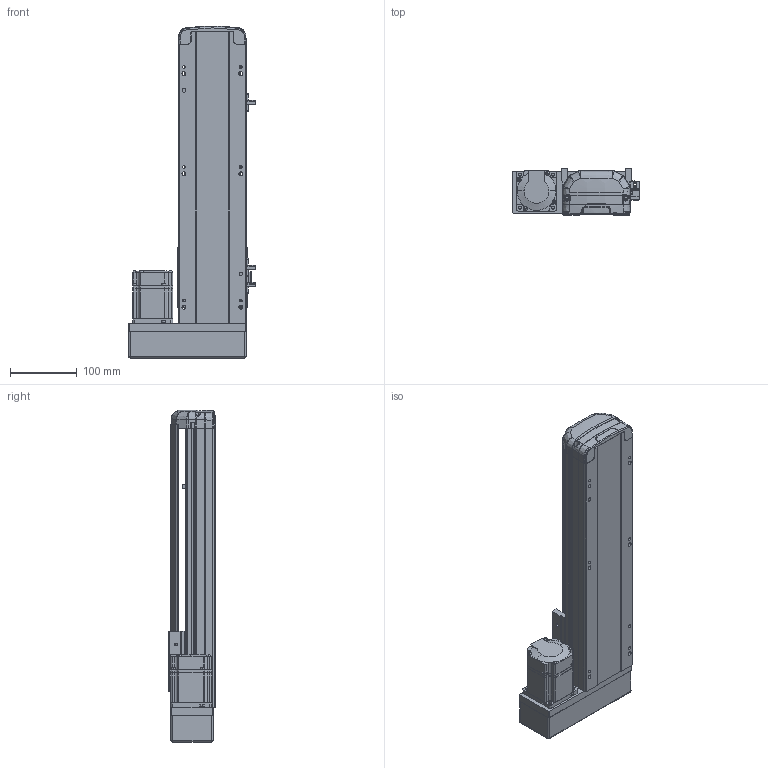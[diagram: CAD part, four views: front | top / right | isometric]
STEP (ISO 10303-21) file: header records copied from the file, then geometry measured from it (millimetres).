
FILE_DESCRIPTION (( 'STEP AP214' ), '1' );
FILE_NAME ('RTH10-XX-250-L-M20-C4.STEP', '2025-10-25T03:44:17', ( 'Microsoft' ), ( 'Microsoft' ), 'SwSTEP 2.0', 'SolidWorks 2018', '' );
FILE_SCHEMA (( 'AUTOMOTIVE_DESIGN' ));
Length unit declared in the file: millimetre
Products named in the file (10): N_RTH12-L-018-裔赽^RTH10-XX-XX-L-M20-C4; N_200W-1^RTH10-XX-XX-L-M20-C4; N_RTH12-L-008萇儂啣^RTH10-XX-XX-L-M20-C4; RTH10-XX-250-L-M20-C4; N_RTH13-L-012覜茼え俋离^RTH10-XX-XX-L-M20-C4; N_RTH12-M-011P-臏倰第菁釱^RTH10-XX-XX-L-M20-C4; N_RTH12-GY-001P^RTH10-XX-XX-L-M20-C4; N_RTH12-M-007P-奻裔^RTH10-XX-XX-L-M20-C4; N_OMRON EE-SX672 传感器^RTH10-XX-XX-L-M20-C4; N_RTH12-GY-004-賑釱^RTH10-XX-XX-L-M20-C4
Assembly tree (11 placements, depth 2):
  RTH10-XX-250-L-M20-C4
    N_RTH12-M-011P-臏倰第菁釱^RTH10-XX-XX-L-M20-C4
    N_RTH13-L-012覜茼え俋离^RTH10-XX-XX-L-M20-C4
    N_OMRON EE-SX672 传感器^RTH10-XX-XX-L-M20-C4  x3
    N_200W-1^RTH10-XX-XX-L-M20-C4
    N_RTH12-M-007P-奻裔^RTH10-XX-XX-L-M20-C4
    N_RTH12-L-008萇儂啣^RTH10-XX-XX-L-M20-C4
    N_RTH12-L-018-裔赽^RTH10-XX-XX-L-M20-C4
    N_RTH12-GY-004-賑釱^RTH10-XX-XX-L-M20-C4
    N_RTH12-GY-001P^RTH10-XX-XX-L-M20-C4
Bounding box: 190 x 70 x 497.31 mm (x, y, z)
Volume: 2596936.8 mm3; surface area: 405443.6 mm2
Topology: 10 solids, 12 shells, 1936 faces, 5377 edges, 3529 vertices
Faces by surface type: plane 975, bspline 472, cylinder 454, cone 29, sphere 4, torus 2
Entity records: 57863 total; most frequent: CARTESIAN_POINT 22933, ORIENTED_EDGE 7826, DIRECTION 6011, EDGE_CURVE 3919, VERTEX_POINT 2573, LINE 2117, VECTOR 2117, AXIS2_PLACEMENT_3D 1947
